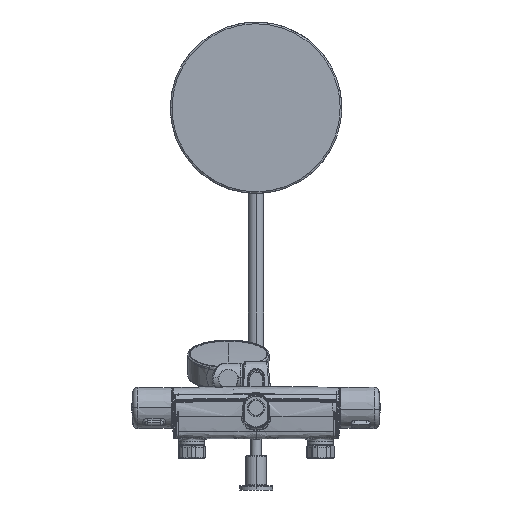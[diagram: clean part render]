
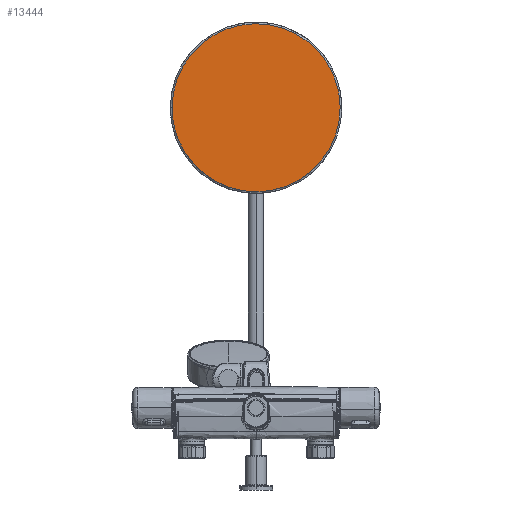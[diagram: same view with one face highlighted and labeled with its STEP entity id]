
A CAD part, front view. The second image highlights one B-rep face of the part: STEP entity #13444.
In plain terms, the highlighted planar face has unit normal (0, -1, 0).
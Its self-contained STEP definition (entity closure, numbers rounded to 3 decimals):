
#1738 = CARTESIAN_POINT ( 'NONE',  ( -43.429, 984.9, 438.086 ) ) ;
#2139 = CARTESIAN_POINT ( 'NONE',  ( 73.832, 984.9, 414.761 ) ) ;
#2856 = CARTESIAN_POINT ( 'NONE',  ( 0., 984.9, 350. ) ) ;
#3060 = PLANE ( 'NONE',  #28951 ) ;
#3832 = CARTESIAN_POINT ( 'NONE',  ( 59.779, 984.9, 272.079 ) ) ;
#3964 = CARTESIAN_POINT ( 'NONE',  ( 98., 984.9, 350. ) ) ;
#3987 = CARTESIAN_POINT ( 'NONE',  ( -97.368, 984.9, 337.172 ) ) ;
#4451 = CARTESIAN_POINT ( 'NONE',  ( 73.832, 984.9, 285.239 ) ) ;
#4653 = CARTESIAN_POINT ( 'NONE',  ( -49.113, 984.9, 264.952 ) ) ;
#5141 = EDGE_CURVE ( 'NONE', #10692, #30121, #27590, .T. ) ;
#6295 = CARTESIAN_POINT ( 'NONE',  ( -94.866, 984.9, 375.41 ) ) ;
#6506 = CARTESIAN_POINT ( 'NONE',  ( -12.828, 984.9, 447.368 ) ) ;
#6707 = CARTESIAN_POINT ( 'NONE',  ( -98., 984.9, 356.414 ) ) ;
#6903 = CARTESIAN_POINT ( 'NONE',  ( 97.368, 984.9, 362.828 ) ) ;
#7256 = CARTESIAN_POINT ( 'NONE',  ( -98., 984.9, 343.586 ) ) ;
#7608 = DIRECTION ( 'NONE',  ( 0., 1., 0. ) ) ;
#8601 = CARTESIAN_POINT ( 'NONE',  ( 88.086, 984.9, 306.571 ) ) ;
#8806 = CARTESIAN_POINT ( 'NONE',  ( -25.41, 984.9, 255.134 ) ) ;
#9217 = CARTESIAN_POINT ( 'NONE',  ( -6.414, 984.9, 252. ) ) ;
#10692 = VERTEX_POINT ( 'NONE', #18613 ) ;
#13362 = CARTESIAN_POINT ( 'NONE',  ( -43.429, 984.9, 261.914 ) ) ;
#13444 = ADVANCED_FACE ( 'NONE', ( #60039 ), #3060, .F. ) ;
#15988 = CARTESIAN_POINT ( 'NONE',  ( -88.086, 984.9, 393.429 ) ) ;
#16185 = CARTESIAN_POINT ( 'NONE',  ( 25.41, 984.9, 444.866 ) ) ;
#16583 = CARTESIAN_POINT ( 'NONE',  ( -85.048, 984.9, 399.113 ) ) ;
#18008 = CARTESIAN_POINT ( 'NONE',  ( -85.048, 984.9, 300.887 ) ) ;
#18068 = CARTESIAN_POINT ( 'NONE',  ( 98., 984.9, 350. ) ) ;
#18491 = CARTESIAN_POINT ( 'NONE',  ( 77.921, 984.9, 290.221 ) ) ;
#18613 = CARTESIAN_POINT ( 'NONE',  ( -98., 984.9, 350. ) ) ;
#18693 = CARTESIAN_POINT ( 'NONE',  ( 97.368, 984.9, 337.172 ) ) ;
#20518 = CARTESIAN_POINT ( 'NONE',  ( -97.368, 984.9, 362.828 ) ) ;
#20915 = CARTESIAN_POINT ( 'NONE',  ( 43.429, 984.9, 438.086 ) ) ;
#21120 = CARTESIAN_POINT ( 'NONE',  ( -6.414, 984.9, 448. ) ) ;
#21267 = CARTESIAN_POINT ( 'NONE',  ( -94.866, 984.9, 324.59 ) ) ;
#22814 = CARTESIAN_POINT ( 'NONE',  ( 64.761, 984.9, 276.168 ) ) ;
#25269 = CARTESIAN_POINT ( 'NONE',  ( 59.779, 984.9, 427.921 ) ) ;
#25463 = CARTESIAN_POINT ( 'NONE',  ( 6.414, 984.9, 448. ) ) ;
#25657 = CARTESIAN_POINT ( 'NONE',  ( -31.577, 984.9, 442.995 ) ) ;
#25865 = CARTESIAN_POINT ( 'NONE',  ( 98., 984.9, 356.414 ) ) ;
#27542 = CARTESIAN_POINT ( 'NONE',  ( -64.761, 984.9, 276.168 ) ) ;
#27590 = B_SPLINE_CURVE_WITH_KNOTS ( 'NONE', 3,
 ( #58859, #6707, #20518, #6295, #49148, #15988, #16583, #39268, #44593, #39662, #48941, #49353, #1738, #25657, #53727, #6506, #21120, #25463, #53921, #16185, #30189, #20915, #34907, #25269, #30385, #2139, #35318, #58265, #39465, #58069, #35116, #6903, #25865, #39869 ),
 .UNSPECIFIED., .F., .F.,
 ( 4, 2, 2, 2, 2, 2, 2, 2, 2, 2, 2, 2, 2, 2, 2, 2, 4 ),
 ( 0.5, 0.531, 0.563, 0.594, 0.625, 0.656, 0.688, 0.719, 0.75, 0.781, 0.813, 0.844, 0.875, 0.906, 0.938, 0.969, 1. ),
 .UNSPECIFIED. ) ;
#27745 = CARTESIAN_POINT ( 'NONE',  ( 85.048, 984.9, 300.887 ) ) ;
#27952 = CARTESIAN_POINT ( 'NONE',  ( -77.921, 984.9, 290.221 ) ) ;
#28951 = AXIS2_PLACEMENT_3D ( 'NONE', #2856, #7608, #44883 ) ;
#30121 = VERTEX_POINT ( 'NONE', #3964 ) ;
#30189 = CARTESIAN_POINT ( 'NONE',  ( 31.577, 984.9, 442.995 ) ) ;
#30385 = CARTESIAN_POINT ( 'NONE',  ( 64.761, 984.9, 423.832 ) ) ;
#31270 = EDGE_CURVE ( 'NONE', #30121, #10692, #34969, .T. ) ;
#32882 = CARTESIAN_POINT ( 'NONE',  ( 6.414, 984.9, 252. ) ) ;
#34907 = CARTESIAN_POINT ( 'NONE',  ( 49.113, 984.9, 435.048 ) ) ;
#34969 = B_SPLINE_CURVE_WITH_KNOTS ( 'NONE', 3,
 ( #18068, #60950, #18693, #46705, #56005, #8601, #27745, #18491, #4451, #22814, #3832, #61162, #55790, #46504, #51475, #51270, #32882, #9217, #41558, #8806, #37621, #13362, #4653, #51069, #27542, #60544, #27952, #18008, #40211, #36519, #21267, #3987, #7256, #49494 ),
 .UNSPECIFIED., .F., .F.,
 ( 4, 2, 2, 2, 2, 2, 2, 2, 2, 2, 2, 2, 2, 2, 2, 2, 4 ),
 ( 0., 0.031, 0.063, 0.094, 0.125, 0.156, 0.188, 0.219, 0.25, 0.281, 0.313, 0.344, 0.375, 0.406, 0.438, 0.469, 0.5 ),
 .UNSPECIFIED. ) ;
#35116 = CARTESIAN_POINT ( 'NONE',  ( 94.866, 984.9, 375.41 ) ) ;
#35318 = CARTESIAN_POINT ( 'NONE',  ( 77.921, 984.9, 409.779 ) ) ;
#36107 = ORIENTED_EDGE ( 'NONE', *, *, #5141, .F. ) ;
#36519 = CARTESIAN_POINT ( 'NONE',  ( -92.995, 984.9, 318.423 ) ) ;
#37621 = CARTESIAN_POINT ( 'NONE',  ( -31.577, 984.9, 257.005 ) ) ;
#39268 = CARTESIAN_POINT ( 'NONE',  ( -77.921, 984.9, 409.779 ) ) ;
#39465 = CARTESIAN_POINT ( 'NONE',  ( 88.086, 984.9, 393.429 ) ) ;
#39662 = CARTESIAN_POINT ( 'NONE',  ( -64.761, 984.9, 423.832 ) ) ;
#39869 = CARTESIAN_POINT ( 'NONE',  ( 98., 984.9, 350. ) ) ;
#40211 = CARTESIAN_POINT ( 'NONE',  ( -88.086, 984.9, 306.571 ) ) ;
#40363 = ORIENTED_EDGE ( 'NONE', *, *, #31270, .F. ) ;
#41558 = CARTESIAN_POINT ( 'NONE',  ( -12.828, 984.9, 252.632 ) ) ;
#44593 = CARTESIAN_POINT ( 'NONE',  ( -73.832, 984.9, 414.761 ) ) ;
#44883 = DIRECTION ( 'NONE',  ( 1., 0., 0. ) ) ;
#46504 = CARTESIAN_POINT ( 'NONE',  ( 31.577, 984.9, 257.005 ) ) ;
#46705 = CARTESIAN_POINT ( 'NONE',  ( 94.866, 984.9, 324.59 ) ) ;
#47322 = EDGE_LOOP ( 'NONE', ( #40363, #36107 ) ) ;
#48941 = CARTESIAN_POINT ( 'NONE',  ( -59.779, 984.9, 427.921 ) ) ;
#49148 = CARTESIAN_POINT ( 'NONE',  ( -92.995, 984.9, 381.577 ) ) ;
#49353 = CARTESIAN_POINT ( 'NONE',  ( -49.113, 984.9, 435.048 ) ) ;
#49494 = CARTESIAN_POINT ( 'NONE',  ( -98., 984.9, 350. ) ) ;
#51069 = CARTESIAN_POINT ( 'NONE',  ( -59.779, 984.9, 272.079 ) ) ;
#51270 = CARTESIAN_POINT ( 'NONE',  ( 12.828, 984.9, 252.632 ) ) ;
#51475 = CARTESIAN_POINT ( 'NONE',  ( 25.41, 984.9, 255.134 ) ) ;
#53727 = CARTESIAN_POINT ( 'NONE',  ( -25.41, 984.9, 444.866 ) ) ;
#53921 = CARTESIAN_POINT ( 'NONE',  ( 12.828, 984.9, 447.368 ) ) ;
#55790 = CARTESIAN_POINT ( 'NONE',  ( 43.429, 984.9, 261.914 ) ) ;
#56005 = CARTESIAN_POINT ( 'NONE',  ( 92.995, 984.9, 318.423 ) ) ;
#58069 = CARTESIAN_POINT ( 'NONE',  ( 92.995, 984.9, 381.577 ) ) ;
#58265 = CARTESIAN_POINT ( 'NONE',  ( 85.048, 984.9, 399.113 ) ) ;
#58859 = CARTESIAN_POINT ( 'NONE',  ( -98., 984.9, 350. ) ) ;
#60039 = FACE_OUTER_BOUND ( 'NONE', #47322, .T. ) ;
#60544 = CARTESIAN_POINT ( 'NONE',  ( -73.832, 984.9, 285.239 ) ) ;
#60950 = CARTESIAN_POINT ( 'NONE',  ( 98., 984.9, 343.586 ) ) ;
#61162 = CARTESIAN_POINT ( 'NONE',  ( 49.113, 984.9, 264.952 ) ) ;
